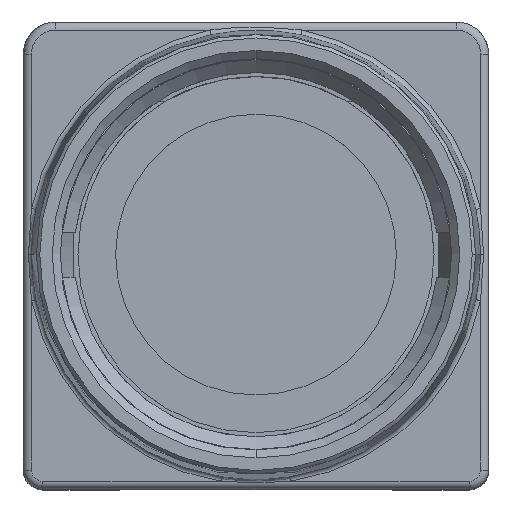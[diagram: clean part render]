
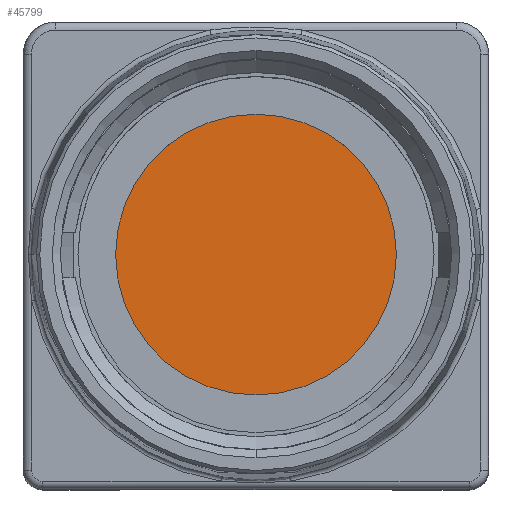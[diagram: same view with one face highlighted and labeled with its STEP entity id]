
A CAD part, top view. The second image highlights one B-rep face of the part: STEP entity #45799.
In plain terms, the highlighted planar face has unit normal (0, 0, 1).
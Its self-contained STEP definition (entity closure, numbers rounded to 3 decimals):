
#11026=CARTESIAN_POINT('',(0.,0.,-1.8));
#11027=DIRECTION('',(0.,0.,1.));
#11028=DIRECTION('',(-1.,0.,0.));
#11029=AXIS2_PLACEMENT_3D('',#11026,#11027,#11028);
#11034=CARTESIAN_POINT('',(0.,0.,-1.8));
#11035=DIRECTION('',(0.,0.,1.));
#11036=DIRECTION('',(1.,0.,0.));
#11037=AXIS2_PLACEMENT_3D('',#11034,#11035,#11036);
#30798=CARTESIAN_POINT('',(-8.75,0.,-1.8));
#30799=CARTESIAN_POINT('',(8.75,0.,-1.8));
#30800=VERTEX_POINT('',#30798);
#30801=VERTEX_POINT('',#30799);
#45788=CARTESIAN_POINT('',(0.,0.,-1.8));
#45789=DIRECTION('',(0.,0.,-1.));
#45790=DIRECTION('',(-1.,0.,0.));
#45791=AXIS2_PLACEMENT_3D('',#45788,#45789,#45790);
#45792=PLANE('',#45791);
#45794=ORIENTED_EDGE('',*,*,#45793,.F.);
#45796=ORIENTED_EDGE('',*,*,#45795,.F.);
#45797=EDGE_LOOP('',(#45794,#45796));
#45798=FACE_OUTER_BOUND('',#45797,.F.);
#45799=ADVANCED_FACE('',(#45798),#45792,.F.);
#11030=CIRCLE('',#11029,8.75);
#11038=CIRCLE('',#11037,8.75);
#45793=EDGE_CURVE('',#30800,#30801,#11030,.T.);
#45795=EDGE_CURVE('',#30801,#30800,#11038,.T.);
